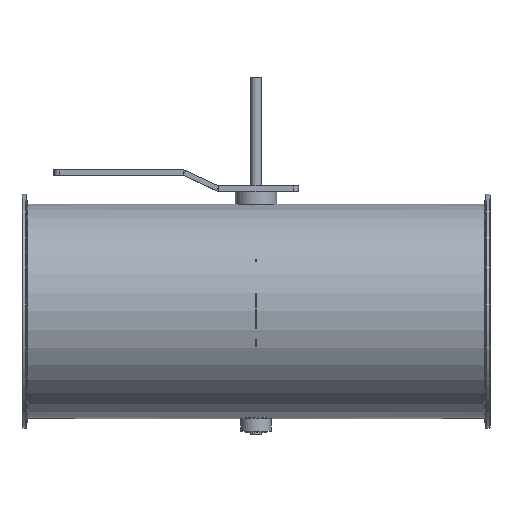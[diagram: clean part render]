
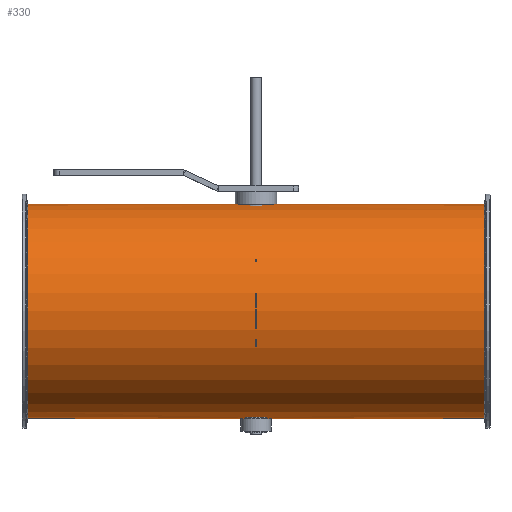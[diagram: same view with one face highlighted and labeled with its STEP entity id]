
A CAD part, top view. The second image highlights one B-rep face of the part: STEP entity #330.
In plain terms, the highlighted cylindrical face has radius 100.8 mm (diameter 201.6 mm), a full revolution.
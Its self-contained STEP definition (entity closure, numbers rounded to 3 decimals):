
#103=B_SPLINE_CURVE_WITH_KNOTS('',3,(#1790,#1791,#1792,#1793,#1794,#1795,
#1796,#1797,#1798,#1799,#1800,#1801,#1802,#1803,#1804,#1805,#1806,#1807),
 .UNSPECIFIED.,.T.,.F.,(2,2,2,2,2,2,2,2,2,2,2),(-0.125,0.,0.125,0.25,0.375,
0.5,0.625,0.75,0.875,1.,1.125),.UNSPECIFIED.);
#104=B_SPLINE_CURVE_WITH_KNOTS('',3,(#1809,#1810,#1811,#1812,#1813,#1814,
#1815,#1816,#1817,#1818,#1819,#1820,#1821,#1822,#1823,#1824,#1825,#1826),
 .UNSPECIFIED.,.T.,.F.,(2,2,2,2,2,2,2,2,2,2,2),(-0.125,0.,0.125,0.25,0.375,
0.5,0.625,0.75,0.875,1.,1.125),.UNSPECIFIED.);
#270=CYLINDRICAL_SURFACE('',#1212,100.8);
#330=ADVANCED_FACE('',(#439,#440,#441,#442),#270,.T.);
#439=FACE_BOUND('',#565,.T.);
#440=FACE_BOUND('',#566,.T.);
#441=FACE_BOUND('',#567,.T.);
#442=FACE_BOUND('',#568,.T.);
#565=EDGE_LOOP('',(#797));
#566=EDGE_LOOP('',(#798));
#567=EDGE_LOOP('',(#799));
#568=EDGE_LOOP('',(#800));
#797=ORIENTED_EDGE('',*,*,#1027,.T.);
#798=ORIENTED_EDGE('',*,*,#1028,.F.);
#799=ORIENTED_EDGE('',*,*,#1029,.F.);
#800=ORIENTED_EDGE('',*,*,#1030,.T.);
#911=VERTEX_POINT('',#1789);
#912=VERTEX_POINT('',#1808);
#913=VERTEX_POINT('',#1827);
#914=VERTEX_POINT('',#1829);
#1027=EDGE_CURVE('',#911,#911,#1095,.T.);
#1028=EDGE_CURVE('',#912,#912,#103,.T.);
#1029=EDGE_CURVE('',#913,#913,#104,.T.);
#1030=EDGE_CURVE('',#914,#914,#1096,.T.);
#1095=CIRCLE('',#1210,100.8);
#1096=CIRCLE('',#1211,100.8);
#1210=AXIS2_PLACEMENT_3D('',#1788,#1491,#1492);
#1211=AXIS2_PLACEMENT_3D('',#1828,#1493,#1494);
#1212=AXIS2_PLACEMENT_3D('',#1830,#1495,#1496);
#1491=DIRECTION('',(-1.,0.,0.));
#1492=DIRECTION('',(0.,0.,-1.));
#1493=DIRECTION('',(1.,0.,0.));
#1494=DIRECTION('',(0.,0.,1.));
#1495=DIRECTION('',(1.,0.,0.));
#1496=DIRECTION('',(0.,0.,-1.));
#1788=CARTESIAN_POINT('',(214.804,-51.,125.));
#1789=CARTESIAN_POINT('',(214.804,-51.,24.2));
#1790=CARTESIAN_POINT('',(2.644,49.303,115.));
#1791=CARTESIAN_POINT('',(-2.644,49.303,115.));
#1792=CARTESIAN_POINT('',(-5.228,49.422,116.086));
#1793=CARTESIAN_POINT('',(-8.915,49.681,119.774));
#1794=CARTESIAN_POINT('',(-9.999,49.8,122.384));
#1795=CARTESIAN_POINT('',(-10.001,49.8,127.605));
#1796=CARTESIAN_POINT('',(-8.941,49.683,130.2));
#1797=CARTESIAN_POINT('',(-5.208,49.421,133.936));
#1798=CARTESIAN_POINT('',(-2.615,49.303,134.999));
#1799=CARTESIAN_POINT('',(2.607,49.303,135.001));
#1800=CARTESIAN_POINT('',(5.219,49.422,133.92));
#1801=CARTESIAN_POINT('',(8.91,49.681,130.236));
#1802=CARTESIAN_POINT('',(9.997,49.8,127.652));
#1803=CARTESIAN_POINT('',(10.003,49.8,122.367));
#1804=CARTESIAN_POINT('',(8.919,49.682,119.78));
#1805=CARTESIAN_POINT('',(5.234,49.422,116.089));
#1806=CARTESIAN_POINT('',(2.644,49.303,115.));
#1807=CARTESIAN_POINT('',(-2.644,49.303,115.));
#1808=CARTESIAN_POINT('',(0.,49.303,115.));
#1809=CARTESIAN_POINT('',(-2.644,-151.303,115.));
#1810=CARTESIAN_POINT('',(2.644,-151.303,115.));
#1811=CARTESIAN_POINT('',(5.228,-151.422,116.086));
#1812=CARTESIAN_POINT('',(8.915,-151.681,119.774));
#1813=CARTESIAN_POINT('',(9.999,-151.8,122.384));
#1814=CARTESIAN_POINT('',(10.001,-151.8,127.605));
#1815=CARTESIAN_POINT('',(8.941,-151.683,130.2));
#1816=CARTESIAN_POINT('',(5.208,-151.421,133.936));
#1817=CARTESIAN_POINT('',(2.615,-151.303,134.999));
#1818=CARTESIAN_POINT('',(-2.607,-151.303,135.001));
#1819=CARTESIAN_POINT('',(-5.219,-151.422,133.92));
#1820=CARTESIAN_POINT('',(-8.91,-151.681,130.236));
#1821=CARTESIAN_POINT('',(-9.997,-151.8,127.652));
#1822=CARTESIAN_POINT('',(-10.003,-151.8,122.367));
#1823=CARTESIAN_POINT('',(-8.919,-151.682,119.78));
#1824=CARTESIAN_POINT('',(-5.234,-151.422,116.089));
#1825=CARTESIAN_POINT('',(-2.644,-151.303,115.));
#1826=CARTESIAN_POINT('',(2.644,-151.303,115.));
#1827=CARTESIAN_POINT('',(0.,-151.303,115.));
#1828=CARTESIAN_POINT('',(-214.804,-51.,125.));
#1829=CARTESIAN_POINT('',(-214.804,-51.,225.8));
#1830=CARTESIAN_POINT('',(-220.,-51.,125.));
